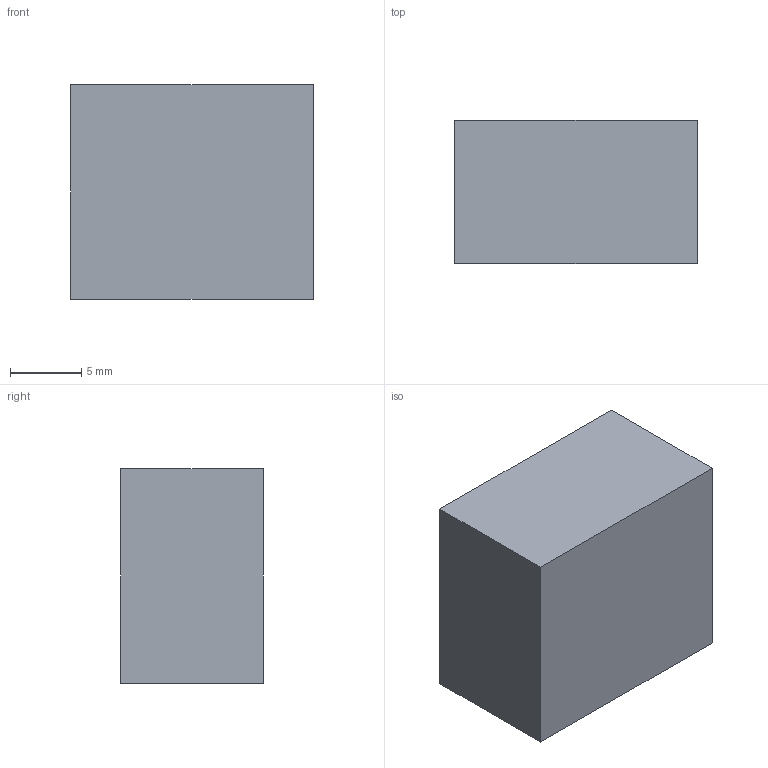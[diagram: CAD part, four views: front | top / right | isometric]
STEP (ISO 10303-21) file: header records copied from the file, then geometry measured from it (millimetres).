
FILE_DESCRIPTION(('Open CASCADE Model'),'2;1');
FILE_NAME('Open CASCADE Shape Model','2026-10-21T18:57:55',('Author'),( 'Open CASCADE'),'Open CASCADE STEP processor 8.0','build123d', 'Unknown');
FILE_SCHEMA(('AUTOMOTIVE_DESIGN { 1 0 10303 214 1 1 1 1 }'));
Length unit declared in the file: millimetre
Products named in the file (1): SOLID
Bounding box: 17 x 10 x 15 mm (x, y, z)
Volume: 2221.2 mm3; surface area: 1349.3 mm2
Topology: 1 solids, 1 shells, 10 faces, 24 edges, 16 vertices
Faces by surface type: plane 10
Entity records: 606 total; most frequent: CARTESIAN_POINT 103, DIRECTION 90, LINE 68, VECTOR 68, ORIENTED_EDGE 48, PCURVE 48, DEFINITIONAL_REPRESENTATION 48, EDGE_CURVE 24
